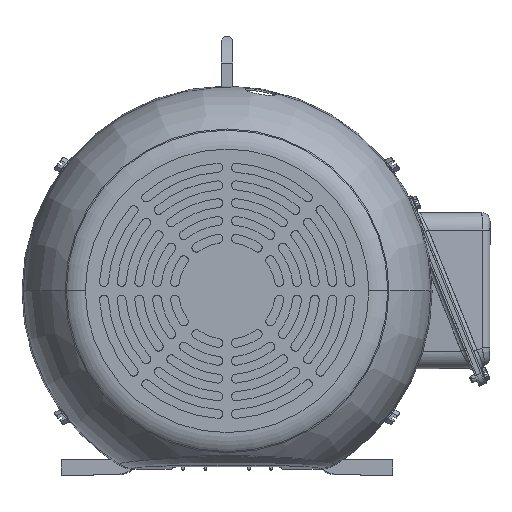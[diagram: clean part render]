
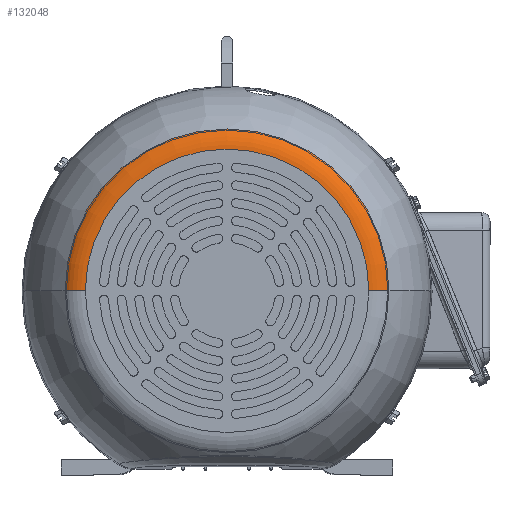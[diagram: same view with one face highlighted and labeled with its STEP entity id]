
A CAD part, top view. The second image highlights one B-rep face of the part: STEP entity #132048.
In plain terms, the highlighted toroidal (fillet/blend) face has major radius 102.05 mm and minor radius 21.788 mm.
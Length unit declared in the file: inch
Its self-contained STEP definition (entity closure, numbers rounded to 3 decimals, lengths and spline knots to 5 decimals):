
#3142 = ORIENTED_EDGE ( 'NONE', *, *, #109933, .F. ) ;
#3583 = VERTEX_POINT ( 'NONE', #15959 ) ;
#6038 = DIRECTION ( 'NONE',  ( 0., 0., 1. ) ) ;
#12396 = CIRCLE ( 'NONE', #113937, 0.8578 ) ;
#15709 = ORIENTED_EDGE ( 'NONE', *, *, #15817, .T. ) ;
#15817 = EDGE_CURVE ( 'NONE', #51847, #93792, #133254, .T. ) ;
#15959 = CARTESIAN_POINT ( 'NONE',  ( 4.58782, 0., 8.71096 ) ) ;
#34992 = DIRECTION ( 'NONE',  ( 0., 1., 0. ) ) ;
#36026 = CARTESIAN_POINT ( 'NONE',  ( 0., 0., 8.9278 ) ) ;
#41354 = DIRECTION ( 'NONE',  ( 1., 0., 0. ) ) ;
#49667 = DIRECTION ( 'NONE',  ( 1., 0., 0. ) ) ;
#51541 = CIRCLE ( 'NONE', #161443, 4.58782 ) ;
#51847 = VERTEX_POINT ( 'NONE', #61710 ) ;
#53786 = CARTESIAN_POINT ( 'NONE',  ( -4.01774, 0., 8.9278 ) ) ;
#53997 = ORIENTED_EDGE ( 'NONE', *, *, #136909, .T. ) ;
#54762 = FACE_OUTER_BOUND ( 'NONE', #67135, .T. ) ;
#57848 = CARTESIAN_POINT ( 'NONE',  ( 4.01774, 0., 8.07 ) ) ;
#59040 = CIRCLE ( 'NONE', #107658, 4.01774 ) ;
#61710 = CARTESIAN_POINT ( 'NONE',  ( -4.58782, 0., 8.71096 ) ) ;
#67135 = EDGE_LOOP ( 'NONE', ( #53997, #15709, #69116, #3142 ) ) ;
#69116 = ORIENTED_EDGE ( 'NONE', *, *, #168995, .F. ) ;
#71521 = DIRECTION ( 'NONE',  ( 0., 0., -1. ) ) ;
#78235 = CARTESIAN_POINT ( 'NONE',  ( 4.01774, 0., 8.9278 ) ) ;
#87269 = CARTESIAN_POINT ( 'NONE',  ( 0., 0., 8.71096 ) ) ;
#90965 = AXIS2_PLACEMENT_3D ( 'NONE', #119673, #34992, #174814 ) ;
#93792 = VERTEX_POINT ( 'NONE', #53786 ) ;
#100929 = DIRECTION ( 'NONE',  ( 1., 0., 0. ) ) ;
#107658 = AXIS2_PLACEMENT_3D ( 'NONE', #36026, #130863, #49667 ) ;
#109933 = EDGE_CURVE ( 'NONE', #3583, #157317, #12396, .T. ) ;
#113937 = AXIS2_PLACEMENT_3D ( 'NONE', #57848, #152689, #71521 ) ;
#119673 = CARTESIAN_POINT ( 'NONE',  ( -4.01774, 0., 8.07 ) ) ;
#130863 = DIRECTION ( 'NONE',  ( 0., 0., 1. ) ) ;
#132048 = ADVANCED_FACE ( 'NONE', ( #54762 ), #163051, .T. ) ;
#133254 = CIRCLE ( 'NONE', #90965, 0.8578 ) ;
#136909 = EDGE_CURVE ( 'NONE', #3583, #51847, #51541, .T. ) ;
#146131 = AXIS2_PLACEMENT_3D ( 'NONE', #149852, #163515, #41354 ) ;
#149852 = CARTESIAN_POINT ( 'NONE',  ( 0., 0., 8.07 ) ) ;
#152689 = DIRECTION ( 'NONE',  ( 0., -1., 0. ) ) ;
#157317 = VERTEX_POINT ( 'NONE', #78235 ) ;
#161443 = AXIS2_PLACEMENT_3D ( 'NONE', #87269, #6038, #100929 ) ;
#163051 = TOROIDAL_SURFACE ( 'NONE', #146131, 4.01774, 0.8578 ) ;
#163515 = DIRECTION ( 'NONE',  ( 0., 0., 1. ) ) ;
#168995 = EDGE_CURVE ( 'NONE', #157317, #93792, #59040, .T. ) ;
#174814 = DIRECTION ( 'NONE',  ( -1., 0., 0. ) ) ;
